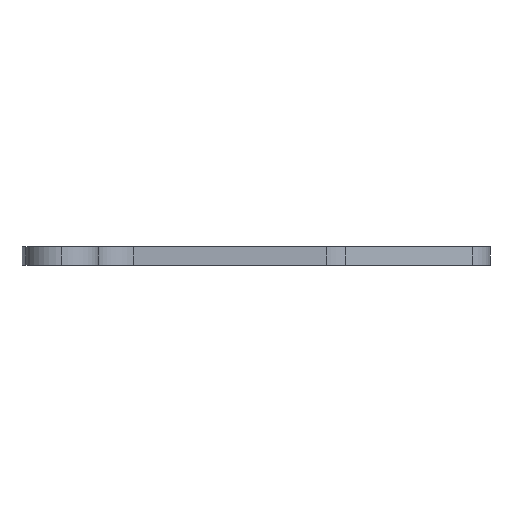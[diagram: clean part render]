
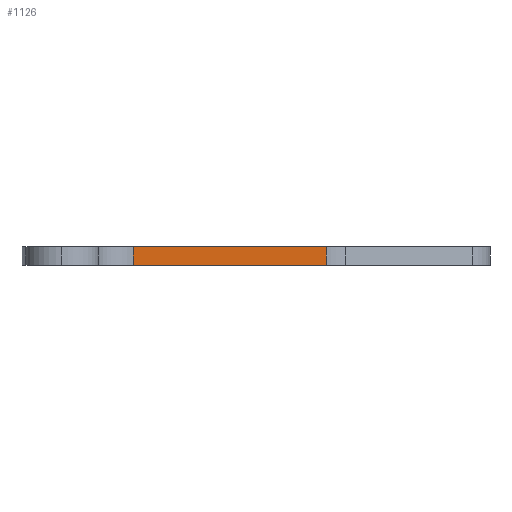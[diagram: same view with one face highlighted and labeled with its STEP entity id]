
A CAD part, left-side view. The second image highlights one B-rep face of the part: STEP entity #1126.
In plain terms, the highlighted planar face has unit normal (-1, 0, 0).
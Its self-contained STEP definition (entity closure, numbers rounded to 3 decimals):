
#7 = CARTESIAN_POINT ( 'NONE',  ( -12.475, 6.5, 2. ) ) ;
#24 = VECTOR ( 'NONE', #1236, 1000. ) ;
#110 = CARTESIAN_POINT ( 'NONE',  ( -12.475, -14.679, 2. ) ) ;
#207 = VECTOR ( 'NONE', #1240, 1000. ) ;
#212 = ORIENTED_EDGE ( 'NONE', *, *, #497, .F. ) ;
#326 = EDGE_CURVE ( 'NONE', #572, #967, #1017, .T. ) ;
#368 = CARTESIAN_POINT ( 'NONE',  ( -12.475, -14.679, 0. ) ) ;
#384 = VERTEX_POINT ( 'NONE', #110 ) ;
#411 = EDGE_LOOP ( 'NONE', ( #981, #783, #658, #212 ) ) ;
#465 = LINE ( 'NONE', #479, #207 ) ;
#471 = CARTESIAN_POINT ( 'NONE',  ( -12.475, 6.5, 0. ) ) ;
#479 = CARTESIAN_POINT ( 'NONE',  ( -12.475, 14.679, 2. ) ) ;
#484 = FACE_OUTER_BOUND ( 'NONE', #411, .T. ) ;
#497 = EDGE_CURVE ( 'NONE', #384, #967, #1221, .T. ) ;
#498 = VECTOR ( 'NONE', #1024, 1000. ) ;
#535 = VECTOR ( 'NONE', #753, 1000. ) ;
#555 = EDGE_CURVE ( 'NONE', #768, #572, #760, .T. ) ;
#572 = VERTEX_POINT ( 'NONE', #471 ) ;
#592 = CARTESIAN_POINT ( 'NONE',  ( -12.475, 14.679, 2. ) ) ;
#658 = ORIENTED_EDGE ( 'NONE', *, *, #326, .T. ) ;
#678 = PLANE ( 'NONE',  #1052 ) ;
#753 = DIRECTION ( 'NONE',  ( 0., 0., -1. ) ) ;
#760 = LINE ( 'NONE', #1253, #535 ) ;
#768 = VERTEX_POINT ( 'NONE', #7 ) ;
#783 = ORIENTED_EDGE ( 'NONE', *, *, #555, .T. ) ;
#873 = DIRECTION ( 'NONE',  ( 0., 0., -1. ) ) ;
#878 = DIRECTION ( 'NONE',  ( 1., 0., 0. ) ) ;
#967 = VERTEX_POINT ( 'NONE', #368 ) ;
#981 = ORIENTED_EDGE ( 'NONE', *, *, #1022, .F. ) ;
#1017 = LINE ( 'NONE', #1206, #498 ) ;
#1022 = EDGE_CURVE ( 'NONE', #768, #384, #465, .T. ) ;
#1024 = DIRECTION ( 'NONE',  ( 0., -1., 0. ) ) ;
#1025 = CARTESIAN_POINT ( 'NONE',  ( -12.475, -14.679, 2. ) ) ;
#1052 = AXIS2_PLACEMENT_3D ( 'NONE', #592, #878, #873 ) ;
#1126 = ADVANCED_FACE ( 'NONE', ( #484 ), #678, .F. ) ;
#1206 = CARTESIAN_POINT ( 'NONE',  ( -12.475, 14.679, 0. ) ) ;
#1221 = LINE ( 'NONE', #1025, #24 ) ;
#1236 = DIRECTION ( 'NONE',  ( 0., 0., -1. ) ) ;
#1240 = DIRECTION ( 'NONE',  ( 0., -1., 0. ) ) ;
#1253 = CARTESIAN_POINT ( 'NONE',  ( -12.475, 6.5, 0. ) ) ;
